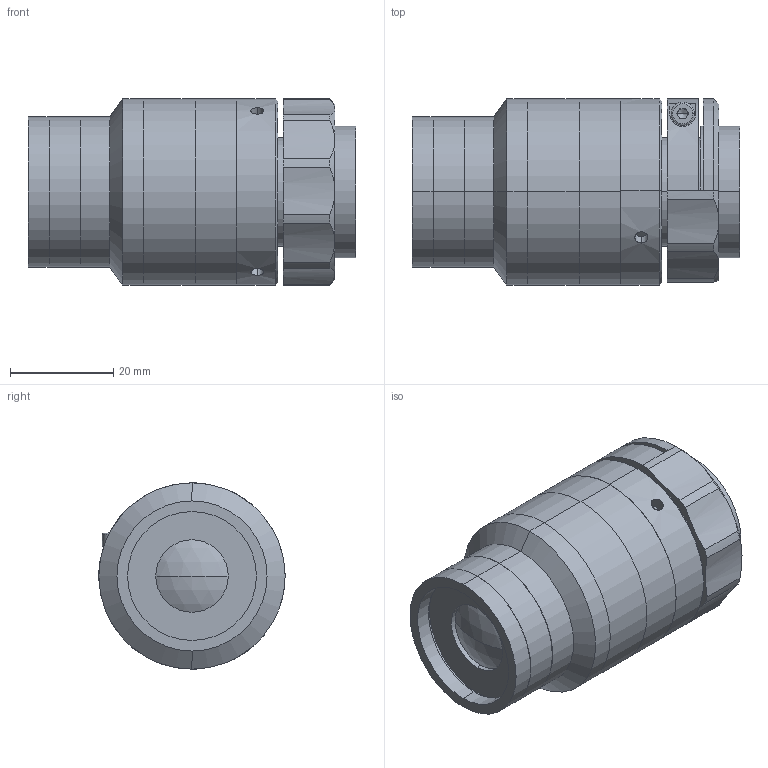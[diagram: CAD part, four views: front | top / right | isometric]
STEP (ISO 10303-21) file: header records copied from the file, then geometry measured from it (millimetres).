
FILE_DESCRIPTION (( 'STEP AP203' ), '1' );
FILE_NAME ('XF-MH03X195.STEP', '2020-08-24T07:08:40', ( 'canrill-02' ), ( '' ), 'SwSTEP 2.0', 'SolidWorks 2014', '' );
FILE_SCHEMA (( 'CONFIG_CONTROL_DESIGN' ));
Length unit declared in the file: millimetre
Products named in the file (1): XF-MH03X195
Bounding box: 63.24 x 36 x 36 mm (x, y, z)
Surface area: 12868.2 mm2 (no closed solid volume)
Topology: 0 solids, 12 shells, 103 faces, 270 edges, 182 vertices
Faces by surface type: cylinder 49, plane 35, cone 15, sphere 2, torus 2
Entity records: 3553 total; most frequent: CARTESIAN_POINT 875, DIRECTION 597, ORIENTED_EDGE 462, EDGE_CURVE 268, AXIS2_PLACEMENT_3D 248, VERTEX_POINT 182, CIRCLE 144, EDGE_LOOP 127
